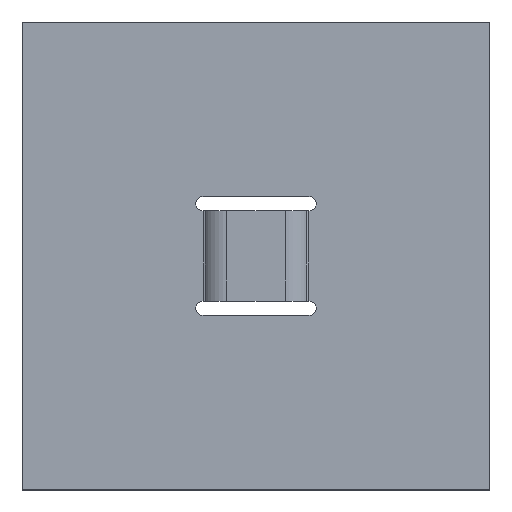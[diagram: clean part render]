
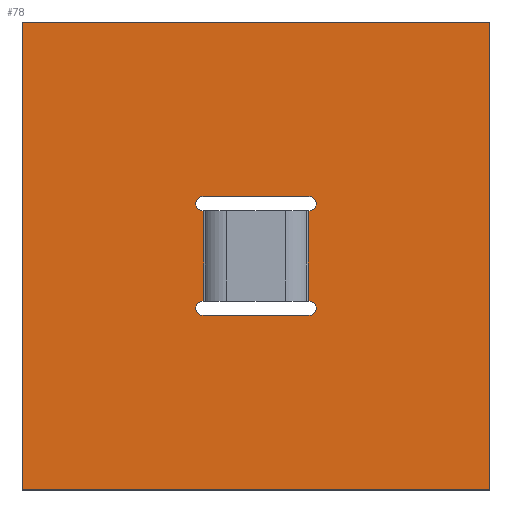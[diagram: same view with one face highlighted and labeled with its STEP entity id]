
A CAD part, top view. The second image highlights one B-rep face of the part: STEP entity #78.
In plain terms, the highlighted planar face has unit normal (0, 0, 1).
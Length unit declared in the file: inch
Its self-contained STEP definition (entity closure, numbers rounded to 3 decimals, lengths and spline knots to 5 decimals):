
#78=ADVANCED_FACE('',(#106,#107),#108,.T.);
#106=FACE_BOUND('',#156,.T.);
#107=FACE_OUTER_BOUND('',#157,.T.);
#108=PLANE('',#158);
#156=EDGE_LOOP('',(#221,#222,#223,#224,#225,#226,#227,#228,#229,#230,#231,#232));
#157=EDGE_LOOP('',(#233,#234,#235,#236));
#158=AXIS2_PLACEMENT_3D('',#237,#238,#239);
#221=ORIENTED_EDGE('',*,*,#419,.F.);
#222=ORIENTED_EDGE('',*,*,#427,.F.);
#223=ORIENTED_EDGE('',*,*,#428,.F.);
#224=ORIENTED_EDGE('',*,*,#429,.T.);
#225=ORIENTED_EDGE('',*,*,#430,.F.);
#226=ORIENTED_EDGE('',*,*,#431,.F.);
#227=ORIENTED_EDGE('',*,*,#424,.F.);
#228=ORIENTED_EDGE('',*,*,#432,.T.);
#229=ORIENTED_EDGE('',*,*,#433,.F.);
#230=ORIENTED_EDGE('',*,*,#434,.F.);
#231=ORIENTED_EDGE('',*,*,#435,.F.);
#232=ORIENTED_EDGE('',*,*,#436,.F.);
#233=ORIENTED_EDGE('',*,*,#437,.T.);
#234=ORIENTED_EDGE('',*,*,#438,.T.);
#235=ORIENTED_EDGE('',*,*,#439,.T.);
#236=ORIENTED_EDGE('',*,*,#440,.F.);
#237=CARTESIAN_POINT('',(-1.422,-0.98793,0.405));
#238=DIRECTION('',(0.0,0.0,1.0));
#239=DIRECTION('',(1.0,0.0,0.0));
#419=EDGE_CURVE('',#493,#488,#495,.T.);
#424=EDGE_CURVE('',#502,#504,#505,.T.);
#427=EDGE_CURVE('',#509,#493,#510,.T.);
#428=EDGE_CURVE('',#511,#509,#512,.F.);
#429=EDGE_CURVE('',#511,#513,#514,.F.);
#430=EDGE_CURVE('',#515,#513,#516,.F.);
#431=EDGE_CURVE('',#504,#515,#517,.T.);
#432=EDGE_CURVE('',#502,#518,#519,.F.);
#433=EDGE_CURVE('',#520,#518,#521,.F.);
#434=EDGE_CURVE('',#522,#520,#523,.T.);
#435=EDGE_CURVE('',#524,#522,#525,.F.);
#436=EDGE_CURVE('',#488,#524,#526,.T.);
#437=EDGE_CURVE('',#527,#528,#529,.F.);
#438=EDGE_CURVE('',#528,#530,#531,.F.);
#439=EDGE_CURVE('',#530,#532,#533,.F.);
#440=EDGE_CURVE('',#527,#532,#534,.T.);
#488=VERTEX_POINT('',#608);
#493=VERTEX_POINT('',#614);
#495=LINE('',#616,#617);
#502=VERTEX_POINT('',#625);
#504=VERTEX_POINT('',#627);
#505=LINE('',#628,#629);
#509=VERTEX_POINT('',#634);
#510=LINE('',#635,#636);
#511=VERTEX_POINT('',#637);
#512=CIRCLE('',#638,0.031);
#513=VERTEX_POINT('',#639);
#514=LINE('',#640,#641);
#515=VERTEX_POINT('',#642);
#516=CIRCLE('',#643,0.031);
#517=LINE('',#644,#645);
#518=VERTEX_POINT('',#646);
#519=LINE('',#647,#648);
#520=VERTEX_POINT('',#649);
#521=CIRCLE('',#650,0.031);
#522=VERTEX_POINT('',#651);
#523=LINE('',#652,#653);
#524=VERTEX_POINT('',#654);
#525=CIRCLE('',#655,0.031);
#526=LINE('',#656,#657);
#527=VERTEX_POINT('',#658);
#528=VERTEX_POINT('',#659);
#529=LINE('',#660,#661);
#530=VERTEX_POINT('',#662);
#531=LINE('',#663,#664);
#532=VERTEX_POINT('',#665);
#533=LINE('',#666,#667);
#534=LINE('',#668,#669);
#608=CARTESIAN_POINT('',(-1.64498,-1.873,0.405));
#614=CARTESIAN_POINT('',(-1.64498,-1.48793,0.405));
#616=CARTESIAN_POINT('',(-1.64498,-0.36564,0.405));
#617=VECTOR('',#783,1.0);
#625=CARTESIAN_POINT('',(-1.19902,-1.873,0.405));
#627=CARTESIAN_POINT('',(-1.19902,-1.48793,0.405));
#628=CARTESIAN_POINT('',(-1.19902,-3.23336,0.405));
#629=VECTOR('',#794,1.0);
#634=CARTESIAN_POINT('',(-1.648,-1.48793,0.405));
#635=CARTESIAN_POINT('',(-1.50867,-1.48793,0.405));
#636=VECTOR('',#799,1.0);
#637=CARTESIAN_POINT('',(-1.648,-1.42593,0.405));
#638=AXIS2_PLACEMENT_3D('',#800,#801,#802);
#639=CARTESIAN_POINT('',(-1.196,-1.42593,0.405));
#640=CARTESIAN_POINT('',(-1.422,-1.42593,0.405));
#641=VECTOR('',#803,1.0);
#642=CARTESIAN_POINT('',(-1.196,-1.48793,0.405));
#643=AXIS2_PLACEMENT_3D('',#804,#805,#806);
#644=CARTESIAN_POINT('',(-1.50867,-1.48793,0.405));
#645=VECTOR('',#807,1.0);
#646=CARTESIAN_POINT('',(-1.196,-1.873,0.405));
#647=CARTESIAN_POINT('',(-1.23226,-1.873,0.405));
#648=VECTOR('',#808,1.0);
#649=CARTESIAN_POINT('',(-1.196,-1.935,0.405));
#650=AXIS2_PLACEMENT_3D('',#809,#810,#811);
#651=CARTESIAN_POINT('',(-1.648,-1.935,0.405));
#652=CARTESIAN_POINT('',(-1.422,-1.935,0.405));
#653=VECTOR('',#812,1.0);
#654=CARTESIAN_POINT('',(-1.648,-1.873,0.405));
#655=AXIS2_PLACEMENT_3D('',#813,#814,#815);
#656=CARTESIAN_POINT('',(-1.23226,-1.873,0.405));
#657=VECTOR('',#816,1.0);
#658=CARTESIAN_POINT('',(-0.422,-2.6805,0.405));
#659=CARTESIAN_POINT('',(-0.422,-0.68043,0.405));
#660=CARTESIAN_POINT('',(-0.422,-0.98793,0.405));
#661=VECTOR('',#817,1.0);
#662=CARTESIAN_POINT('',(-2.422,-0.68043,0.405));
#663=CARTESIAN_POINT('',(-1.422,-0.68043,0.405));
#664=VECTOR('',#818,1.0);
#665=CARTESIAN_POINT('',(-2.422,-2.6805,0.405));
#666=CARTESIAN_POINT('',(-2.422,-0.98793,0.405));
#667=VECTOR('',#819,1.0);
#668=CARTESIAN_POINT('',(-1.422,-2.6805,0.405));
#669=VECTOR('',#820,1.0);
#783=DIRECTION('',(-0.0,-1.0,-0.0));
#794=DIRECTION('',(0.0,1.0,0.0));
#799=DIRECTION('',(1.0,0.0,0.0));
#800=CARTESIAN_POINT('',(-1.648,-1.45693,0.405));
#801=DIRECTION('',(-0.0,0.0,-1.0));
#802=DIRECTION('',(-0.707,-0.707,0.0));
#803=DIRECTION('',(-1.0,0.0,0.0));
#804=CARTESIAN_POINT('',(-1.196,-1.45693,0.405));
#805=DIRECTION('',(0.0,-0.0,-1.0));
#806=DIRECTION('',(0.707,-0.707,0.0));
#807=DIRECTION('',(1.0,0.0,0.0));
#808=DIRECTION('',(-1.0,0.0,0.0));
#809=CARTESIAN_POINT('',(-1.196,-1.904,0.405));
#810=DIRECTION('',(0.0,-0.0,-1.0));
#811=DIRECTION('',(0.707,-0.707,0.0));
#812=DIRECTION('',(1.0,0.0,0.0));
#813=CARTESIAN_POINT('',(-1.648,-1.904,0.405));
#814=DIRECTION('',(-0.0,0.0,-1.0));
#815=DIRECTION('',(-0.707,0.707,0.0));
#816=DIRECTION('',(-1.0,0.0,0.0));
#817=DIRECTION('',(0.0,-1.0,0.0));
#818=DIRECTION('',(1.0,0.0,0.0));
#819=DIRECTION('',(0.0,1.0,0.0));
#820=DIRECTION('',(-1.0,0.0,0.0));
